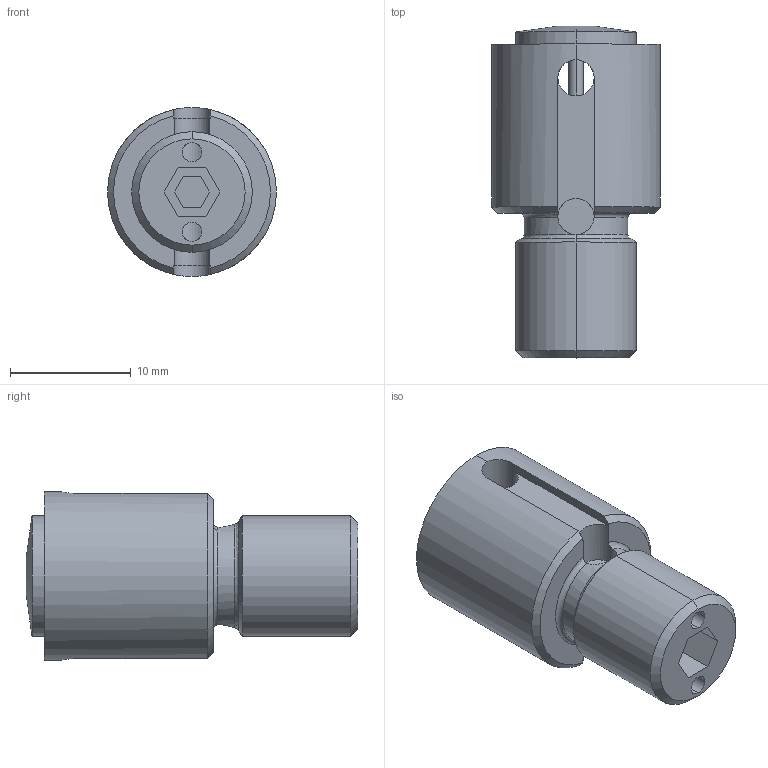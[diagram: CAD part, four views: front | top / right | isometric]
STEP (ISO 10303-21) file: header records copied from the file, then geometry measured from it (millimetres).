
FILE_DESCRIPTION (( 'STEP AP203' ), '1' );
FILE_NAME ('SGD-1410C.STEP', '2018-07-25T14:34:39', ( 'Balzi' ), ( '' ), 'SwSTEP 2.0', 'SolidWorks 2017', '' );
FILE_SCHEMA (( 'CONFIG_CONTROL_DESIGN' ));
Length unit declared in the file: millimetre
Products named in the file (1): SGD-1410C
Bounding box: 14 x 27.5 x 14 mm (x, y, z)
Volume: 2845.1 mm3; surface area: 1690.3 mm2
Topology: 1 solids, 1 shells, 62 faces, 164 edges, 104 vertices
Faces by surface type: plane 28, cylinder 22, cone 8, torus 4
Entity records: 2209 total; most frequent: CARTESIAN_POINT 605, ORIENTED_EDGE 328, DIRECTION 304, EDGE_CURVE 164, AXIS2_PLACEMENT_3D 109, VERTEX_POINT 104, LINE 86, VECTOR 86
